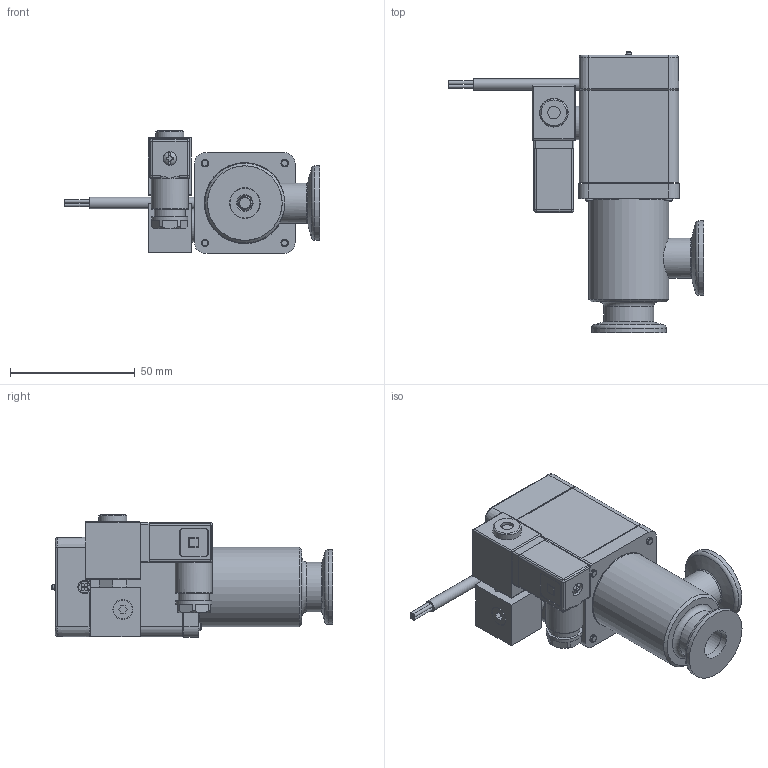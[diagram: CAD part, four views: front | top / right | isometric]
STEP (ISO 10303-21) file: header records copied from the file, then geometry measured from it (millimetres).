
FILE_DESCRIPTION(/* description */ (''),/* implementation_level */ '2;1');
FILE_NAME(/* name */ '1104977613_203.stp',/* time_stamp */ '2013-09-18T09:38:07+02:00',/* author */ (''),/* organization */ (''),/* preprocessor_version */ 'ST-DEVELOPER v11',/* originating_system */ 'SIEMENS PLM Software NX 7.5',/* authorisation */ '');
FILE_SCHEMA (('AP203_CONFIGURATION_CONTROLLED_3D_DESIGN_OF_MECHANICAL_PARTS_AND_ASSEMBLIES_MIM_LF'));
Length unit declared in the file: millimetre
Products named in the file (18): 467882; 437235; 244091.2; 236208.2; 233364; 239888_6.1; 236204_1.1; 346126.1; 245708.5; 346129.1; 244168.6; 243880.7; 244224.1; n-8501-400.2_MODELNX-ARRAGMNTArrangement 1; 443457; 402885_NX-ARRAGMNTLAGEMELDERZEICHNUNG; 346132.2; 710053
Assembly tree (22 placements, depth 4):
  710053
    346132.2
      346129.1
      245708.5
      346126.1
    244224.1  x4
    402885_NX-ARRAGMNTLAGEMELDERZEICHNUNG
      236204_1.1  x2
      239888_6.1
      233364
      236208.2  x2
    243880.7
    244168.6
    443457
      244091.2
      n-8501-400.2_MODELNX-ARRAGMNTArrangement 1
        437235
        467882
Bounding box: 102.43 x 113.1 x 49.3 mm (x, y, z)
Volume: 96561.9 mm3; surface area: 64248.2 mm2
Topology: 27 solids, 28 shells, 854 faces, 2079 edges, 1354 vertices
Faces by surface type: plane 506, cylinder 207, cone 89, bspline 28, torus 17, sphere 7
Full cylindrical faces by diameter (mm): 1.4 x8, 2 x8, 2.2 x4, 2.3 x1, 2.36 x4, 2.4 x4, 2.5 x6, 2.8 x1, 3 x20, 3.4 x4, 4 x2, 4.2 x1, 4.22 x1, 4.6 x1, 4.7 x3, 4.8 x1, 5 x5, 5.5 x5, 5.6 x2, 6 x4, 6.013 x2, 6.5 x4, 7.4 x1, 7.6 x1, 7.9 x1, 8 x1, 8.85 x1, 10.2 x1, 11.3 x1, 11.4 x1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
Entity records: 25772 total; most frequent: CARTESIAN_POINT 5277, DIRECTION 3526, ORIENTED_EDGE 3232, EDGE_CURVE 1616, AXIS2_PLACEMENT_3D 1271, VERTEX_POINT 1167, EDGE_LOOP 1061, LINE 984
